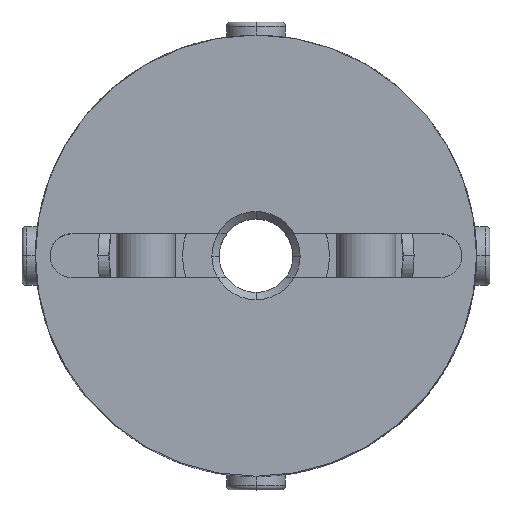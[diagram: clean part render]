
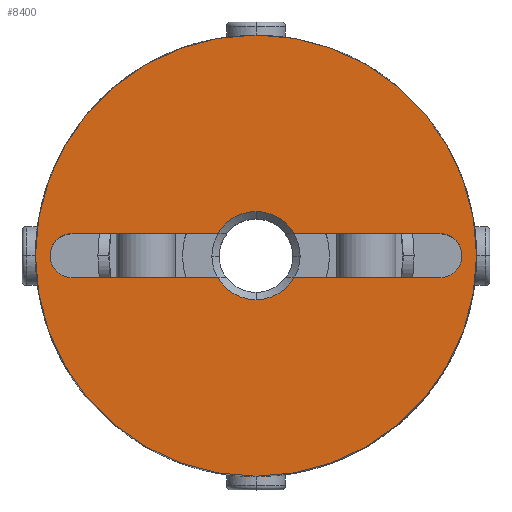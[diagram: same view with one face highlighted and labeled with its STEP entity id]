
A CAD part, top view. The second image highlights one B-rep face of the part: STEP entity #8400.
In plain terms, the highlighted planar face has unit normal (0, 0, 1).
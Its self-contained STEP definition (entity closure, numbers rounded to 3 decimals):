
#649=CARTESIAN_POINT('',(0.,3.,15.0));
#650=VERTEX_POINT('',#649);
#666=CARTESIAN_POINT('',(2.598,1.5,15.0));
#667=VERTEX_POINT('',#666);
#681=CARTESIAN_POINT('',(0.,0.,15.0));
#682=DIRECTION('',(0.0,0.0,1.0));
#683=DIRECTION('',(0.0,1.0,0.0));
#684=AXIS2_PLACEMENT_3D('',#681,#682,#683);
#685=CIRCLE('',#684,3.0);
#686=EDGE_CURVE('',#667,#650,#685,.T.);
#696=CARTESIAN_POINT('',(0.,-3.,15.0));
#697=VERTEX_POINT('',#696);
#706=CARTESIAN_POINT('',(2.598,-1.5,15.0));
#707=VERTEX_POINT('',#706);
#708=CARTESIAN_POINT('',(0.,0.,15.0));
#709=DIRECTION('',(0.0,0.0,1.0));
#710=DIRECTION('',(0.0,1.0,0.0));
#711=AXIS2_PLACEMENT_3D('',#708,#709,#710);
#712=CIRCLE('',#711,3.0);
#713=EDGE_CURVE('',#697,#707,#712,.T.);
#872=CARTESIAN_POINT('',(-13.561,-1.061,15.0));
#873=VERTEX_POINT('',#872);
#889=CARTESIAN_POINT('',(-12.5,1.5,15.0));
#890=VERTEX_POINT('',#889);
#897=CARTESIAN_POINT('',(-12.5,0.,15.0));
#898=DIRECTION('',(0.0,0.0,1.0));
#899=DIRECTION('',(-0.707,0.707,0.0));
#900=AXIS2_PLACEMENT_3D('',#897,#898,#899);
#901=CIRCLE('',#900,1.5);
#902=EDGE_CURVE('',#890,#873,#901,.T.);
#914=CARTESIAN_POINT('',(13.561,-1.061,15.0));
#915=VERTEX_POINT('',#914);
#931=CARTESIAN_POINT('',(12.5,-1.5,15.0));
#932=VERTEX_POINT('',#931);
#939=CARTESIAN_POINT('',(12.5,0.,15.0));
#940=DIRECTION('',(0.0,0.0,1.0));
#941=DIRECTION('',(0.707,-0.707,0.0));
#942=AXIS2_PLACEMENT_3D('',#939,#940,#941);
#943=CIRCLE('',#942,1.5);
#944=EDGE_CURVE('',#932,#915,#943,.T.);
#1489=CARTESIAN_POINT('',(0.,-15.,15.0));
#1490=VERTEX_POINT('',#1489);
#1497=CARTESIAN_POINT('',(0.,15.0,15.0));
#1498=VERTEX_POINT('',#1497);
#1499=CARTESIAN_POINT('',(0.,0.,15.0));
#1500=DIRECTION('',(0.0,0.0,-1.0));
#1501=DIRECTION('',(0.0,1.0,0.0));
#1502=AXIS2_PLACEMENT_3D('',#1499,#1500,#1501);
#1503=CIRCLE('',#1502,15.0);
#1504=EDGE_CURVE('',#1490,#1498,#1503,.T.);
#7601=CARTESIAN_POINT('',(0.,0.,15.0));
#7602=DIRECTION('',(0.0,0.0,-1.0));
#7603=DIRECTION('',(0.0,1.0,0.0));
#7604=AXIS2_PLACEMENT_3D('',#7601,#7602,#7603);
#7605=CIRCLE('',#7604,15.0);
#7606=EDGE_CURVE('',#1498,#1490,#7605,.T.);
#8166=CARTESIAN_POINT('',(12.5,1.5,15.0));
#8167=VERTEX_POINT('',#8166);
#8174=CARTESIAN_POINT('',(2.598,1.5,15.0));
#8175=DIRECTION('',(1.0,0.0,0.0));
#8176=VECTOR('',#8175,9.902);
#8177=LINE('',#8174,#8176);
#8178=EDGE_CURVE('',#667,#8167,#8177,.T.);
#8202=CARTESIAN_POINT('',(12.5,0.,15.0));
#8203=DIRECTION('',(0.0,0.0,1.0));
#8204=DIRECTION('',(0.707,-0.707,0.0));
#8205=AXIS2_PLACEMENT_3D('',#8202,#8203,#8204);
#8206=CIRCLE('',#8205,1.5);
#8207=EDGE_CURVE('',#915,#8167,#8206,.T.);
#8220=CARTESIAN_POINT('',(-12.5,-1.5,15.0));
#8221=VERTEX_POINT('',#8220);
#8222=CARTESIAN_POINT('',(-12.5,0.,15.0));
#8223=DIRECTION('',(0.0,0.0,1.0));
#8224=DIRECTION('',(-0.707,0.707,0.0));
#8225=AXIS2_PLACEMENT_3D('',#8222,#8223,#8224);
#8226=CIRCLE('',#8225,1.5);
#8227=EDGE_CURVE('',#873,#8221,#8226,.T.);
#8260=CARTESIAN_POINT('',(-2.598,1.5,15.0));
#8261=VERTEX_POINT('',#8260);
#8275=CARTESIAN_POINT('',(-12.5,1.5,15.0));
#8276=DIRECTION('',(1.0,0.0,0.0));
#8277=VECTOR('',#8276,9.902);
#8278=LINE('',#8275,#8277);
#8279=EDGE_CURVE('',#890,#8261,#8278,.T.);
#8294=CARTESIAN_POINT('',(-2.598,-1.5,15.0));
#8295=VERTEX_POINT('',#8294);
#8296=CARTESIAN_POINT('',(-2.598,-1.5,15.0));
#8297=DIRECTION('',(-1.0,0.0,0.0));
#8298=VECTOR('',#8297,9.902);
#8299=LINE('',#8296,#8298);
#8300=EDGE_CURVE('',#8295,#8221,#8299,.T.);
#8352=CARTESIAN_POINT('',(12.5,-1.5,15.0));
#8353=DIRECTION('',(-1.0,0.0,0.0));
#8354=VECTOR('',#8353,9.902);
#8355=LINE('',#8352,#8354);
#8356=EDGE_CURVE('',#932,#707,#8355,.T.);
#8365=CARTESIAN_POINT('',(0.,1.364,15.0));
#8366=DIRECTION('',(0.0,0.0,1.0));
#8367=DIRECTION('',(0.0,1.0,0.0));
#8368=AXIS2_PLACEMENT_3D('',#8365,#8366,#8367);
#8369=PLANE('',#8368);
#8370=ORIENTED_EDGE('',*,*,#7606,.F.);
#8371=ORIENTED_EDGE('',*,*,#1504,.F.);
#8372=EDGE_LOOP('',(#8370,#8371));
#8373=FACE_OUTER_BOUND('',#8372,.T.);
#8374=ORIENTED_EDGE('',*,*,#8178,.T.);
#8375=ORIENTED_EDGE('',*,*,#8207,.F.);
#8376=ORIENTED_EDGE('',*,*,#944,.F.);
#8377=ORIENTED_EDGE('',*,*,#8356,.T.);
#8378=ORIENTED_EDGE('',*,*,#713,.F.);
#8379=CARTESIAN_POINT('',(0.,0.,15.0));
#8380=DIRECTION('',(0.0,0.0,1.0));
#8381=DIRECTION('',(0.0,1.0,0.0));
#8382=AXIS2_PLACEMENT_3D('',#8379,#8380,#8381);
#8383=CIRCLE('',#8382,3.0);
#8384=EDGE_CURVE('',#8295,#697,#8383,.T.);
#8385=ORIENTED_EDGE('',*,*,#8384,.F.);
#8386=ORIENTED_EDGE('',*,*,#8300,.T.);
#8387=ORIENTED_EDGE('',*,*,#8227,.F.);
#8388=ORIENTED_EDGE('',*,*,#902,.F.);
#8389=ORIENTED_EDGE('',*,*,#8279,.T.);
#8390=CARTESIAN_POINT('',(0.,0.,15.0));
#8391=DIRECTION('',(0.0,0.0,1.0));
#8392=DIRECTION('',(0.0,1.0,0.0));
#8393=AXIS2_PLACEMENT_3D('',#8390,#8391,#8392);
#8394=CIRCLE('',#8393,3.0);
#8395=EDGE_CURVE('',#650,#8261,#8394,.T.);
#8396=ORIENTED_EDGE('',*,*,#8395,.F.);
#8397=ORIENTED_EDGE('',*,*,#686,.F.);
#8398=EDGE_LOOP('',(#8374,#8375,#8376,#8377,#8378,#8385,#8386,#8387,#8388,#8389,#8396,#8397));
#8399=FACE_BOUND('',#8398,.T.);
#8400=ADVANCED_FACE('',(#8373,#8399),#8369,.T.);
